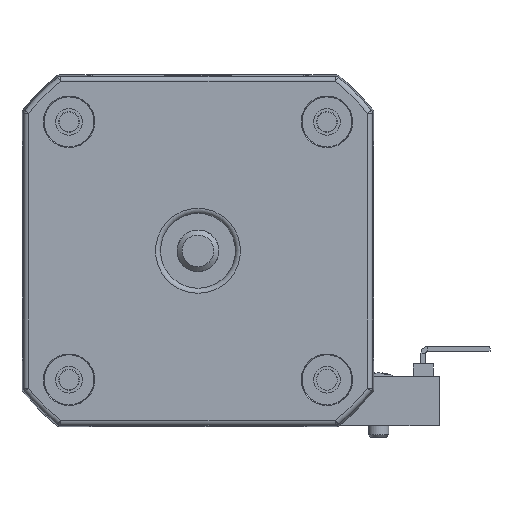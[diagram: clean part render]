
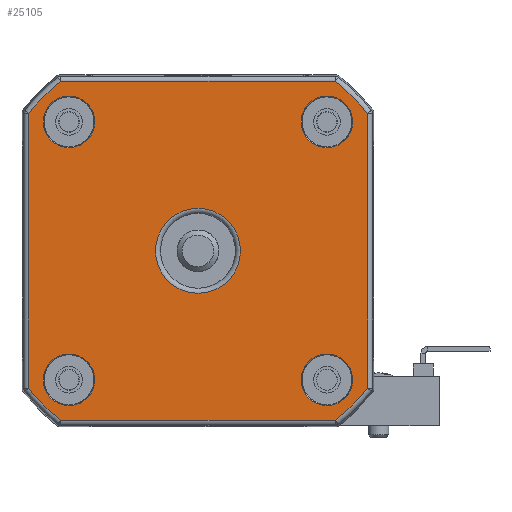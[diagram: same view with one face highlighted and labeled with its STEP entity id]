
A CAD part, front view. The second image highlights one B-rep face of the part: STEP entity #25105.
In plain terms, the highlighted planar face has unit normal (0, -1, 0) as drawn and (0, 1, 0) by its records, which use the part's own axes.
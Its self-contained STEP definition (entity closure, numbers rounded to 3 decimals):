
#1629=FACE_BOUND('',#9559,.T.);
#1630=FACE_BOUND('',#9560,.T.);
#1631=FACE_BOUND('',#9561,.T.);
#1632=FACE_BOUND('',#9562,.T.);
#1633=FACE_BOUND('',#9563,.T.);
#1880=PLANE('',#26844);
#3026=LINE('',#34411,#5639);
#3027=LINE('',#34415,#5640);
#3028=LINE('',#34419,#5641);
#3029=LINE('',#34422,#5642);
#5639=VECTOR('',#28904,10.);
#5640=VECTOR('',#28907,10.);
#5641=VECTOR('',#28910,10.);
#5642=VECTOR('',#28913,10.);
#8091=FACE_OUTER_BOUND('',#9558,.T.);
#9558=EDGE_LOOP('',(#18413,#18414,#18415,#18416,#18417,#18418,#18419,#18420));
#9559=EDGE_LOOP('',(#18421));
#9560=EDGE_LOOP('',(#18422));
#9561=EDGE_LOOP('',(#18423));
#9562=EDGE_LOOP('',(#18424));
#9563=EDGE_LOOP('',(#18425));
#10979=CIRCLE('',#26845,26.236);
#10980=CIRCLE('',#26846,26.236);
#10981=CIRCLE('',#26847,26.236);
#10982=CIRCLE('',#26848,26.236);
#10983=CIRCLE('',#26849,3.1);
#10984=CIRCLE('',#26850,3.1);
#10985=CIRCLE('',#26851,3.1);
#10986=CIRCLE('',#26852,3.1);
#10987=CIRCLE('',#26853,5.1);
#11581=VERTEX_POINT('',#34407);
#11582=VERTEX_POINT('',#34408);
#11583=VERTEX_POINT('',#34410);
#11584=VERTEX_POINT('',#34412);
#11585=VERTEX_POINT('',#34414);
#11586=VERTEX_POINT('',#34416);
#11587=VERTEX_POINT('',#34418);
#11588=VERTEX_POINT('',#34420);
#11589=VERTEX_POINT('',#34423);
#11590=VERTEX_POINT('',#34425);
#11591=VERTEX_POINT('',#34427);
#11592=VERTEX_POINT('',#34429);
#11593=VERTEX_POINT('',#34431);
#14210=EDGE_CURVE('',#11581,#11582,#10979,.T.);
#14211=EDGE_CURVE('',#11582,#11583,#3026,.T.);
#14212=EDGE_CURVE('',#11583,#11584,#10980,.T.);
#14213=EDGE_CURVE('',#11584,#11585,#3027,.T.);
#14214=EDGE_CURVE('',#11585,#11586,#10981,.T.);
#14215=EDGE_CURVE('',#11586,#11587,#3028,.T.);
#14216=EDGE_CURVE('',#11587,#11588,#10982,.T.);
#14217=EDGE_CURVE('',#11588,#11581,#3029,.T.);
#14218=EDGE_CURVE('',#11589,#11589,#10983,.T.);
#14219=EDGE_CURVE('',#11590,#11590,#10984,.T.);
#14220=EDGE_CURVE('',#11591,#11591,#10985,.T.);
#14221=EDGE_CURVE('',#11592,#11592,#10986,.T.);
#14222=EDGE_CURVE('',#11593,#11593,#10987,.T.);
#18413=ORIENTED_EDGE('',*,*,#14210,.T.);
#18414=ORIENTED_EDGE('',*,*,#14211,.T.);
#18415=ORIENTED_EDGE('',*,*,#14212,.T.);
#18416=ORIENTED_EDGE('',*,*,#14213,.T.);
#18417=ORIENTED_EDGE('',*,*,#14214,.T.);
#18418=ORIENTED_EDGE('',*,*,#14215,.T.);
#18419=ORIENTED_EDGE('',*,*,#14216,.T.);
#18420=ORIENTED_EDGE('',*,*,#14217,.T.);
#18421=ORIENTED_EDGE('',*,*,#14218,.F.);
#18422=ORIENTED_EDGE('',*,*,#14219,.F.);
#18423=ORIENTED_EDGE('',*,*,#14220,.F.);
#18424=ORIENTED_EDGE('',*,*,#14221,.F.);
#18425=ORIENTED_EDGE('',*,*,#14222,.T.);
#25105=ADVANCED_FACE('',(#8091,#1629,#1630,#1631,#1632,#1633),#1880,.T.);
#26844=AXIS2_PLACEMENT_3D('',#34406,#28900,#28901);
#26845=AXIS2_PLACEMENT_3D('',#34409,#28902,#28903);
#26846=AXIS2_PLACEMENT_3D('',#34413,#28905,#28906);
#26847=AXIS2_PLACEMENT_3D('',#34417,#28908,#28909);
#26848=AXIS2_PLACEMENT_3D('',#34421,#28911,#28912);
#26849=AXIS2_PLACEMENT_3D('',#34424,#28914,#28915);
#26850=AXIS2_PLACEMENT_3D('',#34426,#28916,#28917);
#26851=AXIS2_PLACEMENT_3D('',#34428,#28918,#28919);
#26852=AXIS2_PLACEMENT_3D('',#34430,#28920,#28921);
#26853=AXIS2_PLACEMENT_3D('',#34432,#28922,#28923);
#28900=DIRECTION('center_axis',(0.,1.,0.));
#28901=DIRECTION('ref_axis',(0.,0.,1.));
#28902=DIRECTION('center_axis',(0.,1.,0.));
#28903=DIRECTION('ref_axis',(0.629,0.,-0.777));
#28904=DIRECTION('',(-1.,0.,0.));
#28905=DIRECTION('center_axis',(0.,1.,0.));
#28906=DIRECTION('ref_axis',(-0.777,0.,-0.629));
#28907=DIRECTION('',(0.,0.,1.));
#28908=DIRECTION('center_axis',(0.,1.,0.));
#28909=DIRECTION('ref_axis',(-0.629,0.,0.777));
#28910=DIRECTION('',(1.,0.,0.));
#28911=DIRECTION('center_axis',(0.,1.,0.));
#28912=DIRECTION('ref_axis',(0.777,0.,0.629));
#28913=DIRECTION('',(0.,0.,-1.));
#28914=DIRECTION('center_axis',(0.,1.,0.));
#28915=DIRECTION('ref_axis',(0.,0.,-1.));
#28916=DIRECTION('center_axis',(0.,1.,0.));
#28917=DIRECTION('ref_axis',(0.,0.,-1.));
#28918=DIRECTION('center_axis',(0.,1.,0.));
#28919=DIRECTION('ref_axis',(0.,0.,-1.));
#28920=DIRECTION('center_axis',(0.,1.,0.));
#28921=DIRECTION('ref_axis',(0.,0.,-1.));
#28922=DIRECTION('center_axis',(0.,-1.,0.));
#28923=DIRECTION('ref_axis',(0.,0.,-1.));
#34406=CARTESIAN_POINT('Origin',(-20.396,29.288,0.));
#34407=CARTESIAN_POINT('',(20.386,29.288,-16.515));
#34408=CARTESIAN_POINT('',(16.515,29.288,-20.386));
#34409=CARTESIAN_POINT('Origin',(0.,29.288,
0.));
#34410=CARTESIAN_POINT('',(-16.515,29.288,-20.386));
#34411=CARTESIAN_POINT('',(16.515,29.288,-20.386));
#34412=CARTESIAN_POINT('',(-20.386,29.288,-16.515));
#34413=CARTESIAN_POINT('Origin',(0.,29.288,0.));
#34414=CARTESIAN_POINT('',(-20.386,29.288,16.515));
#34415=CARTESIAN_POINT('',(-20.386,29.288,-16.515));
#34416=CARTESIAN_POINT('',(-16.515,29.288,20.386));
#34417=CARTESIAN_POINT('Origin',(0.,29.288,
0.));
#34418=CARTESIAN_POINT('',(16.515,29.288,20.386));
#34419=CARTESIAN_POINT('',(-16.515,29.288,20.386));
#34420=CARTESIAN_POINT('',(20.386,29.288,16.515));
#34421=CARTESIAN_POINT('Origin',(0.,29.288,
0.));
#34422=CARTESIAN_POINT('',(20.386,29.288,16.515));
#34423=CARTESIAN_POINT('',(-13.699,29.288,-12.977));
#34424=CARTESIAN_POINT('Origin',(-15.5,29.288,-15.5));
#34425=CARTESIAN_POINT('',(17.301,29.288,-12.977));
#34426=CARTESIAN_POINT('Origin',(15.5,29.288,-15.5));
#34427=CARTESIAN_POINT('',(17.301,29.288,18.023));
#34428=CARTESIAN_POINT('Origin',(15.5,29.288,15.5));
#34429=CARTESIAN_POINT('',(-13.699,29.288,18.023));
#34430=CARTESIAN_POINT('Origin',(-15.5,29.288,15.5));
#34431=CARTESIAN_POINT('',(0.,29.288,-5.1));
#34432=CARTESIAN_POINT('Origin',(0.,29.288,0.));
